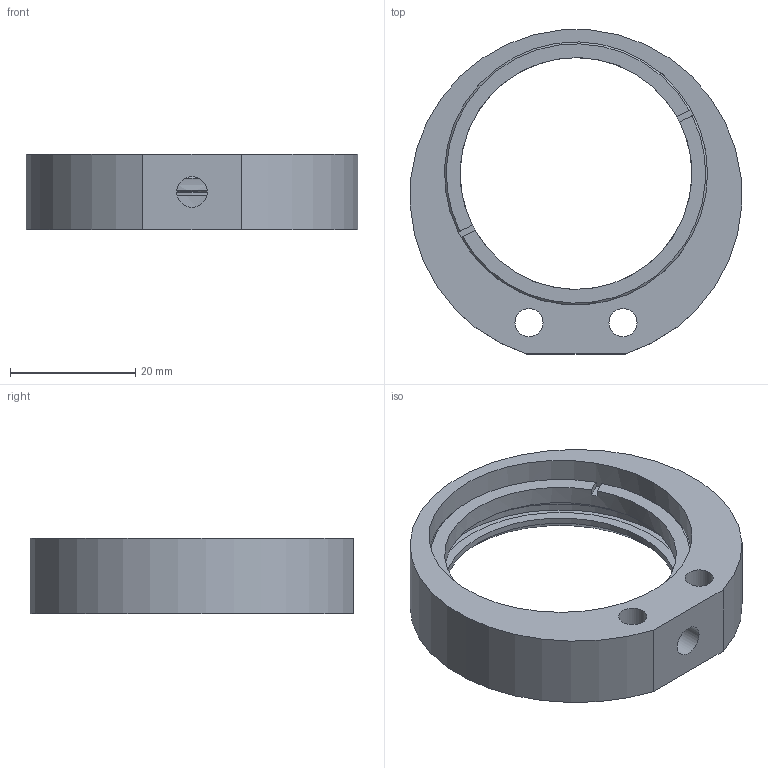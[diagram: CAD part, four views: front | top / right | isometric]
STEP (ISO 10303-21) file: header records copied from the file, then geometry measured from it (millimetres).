
FILE_DESCRIPTION(/* description */ (''),/* implementation_level */ '2;1');
FILE_NAME(/* name */ 'U:\KONSTRUKTORIAI\! ! ! BENDRAS ! ! !\Darius\Darius\Schemos\04\4OCM\4OCM-40\SAT\4OCM-40 INT.stp',/* time_stamp */ '2016-03-31T10:08:53+03:00',/* author */ ('dsgn39'),/* organization */ (''),/* preprocessor_version */ 'ST-DEVELOPER v15.2',/* originating_system */ 'Autodesk Inventor 2014',/* authorisation */ '');
FILE_SCHEMA (('AUTOMOTIVE_DESIGN { 1 0 10303 214 3 1 1 }'));
Length unit declared in the file: inch
Products named in the file (1): 4OCM-40 INT
Bounding box: 52.89 x 51.7 x 12 mm (x, y, z)
Volume: 10498.9 mm3; surface area: 7141.4 mm2
Topology: 1 solids, 1 shells, 33 faces, 85 edges, 56 vertices
Faces by surface type: plane 16, cylinder 13, cone 4
Full cylindrical faces by diameter (mm): 4.5 x2, 4.917 x1, 37 x2, 40.1 x2, 42 x2, 43 x1
Entity records: 985 total; most frequent: CARTESIAN_POINT 188, DIRECTION 158, ORIENTED_EDGE 126, AXIS2_PLACEMENT_3D 67, EDGE_CURVE 63, EDGE_LOOP 56, VERTEX_POINT 47, CIRCLE 34
